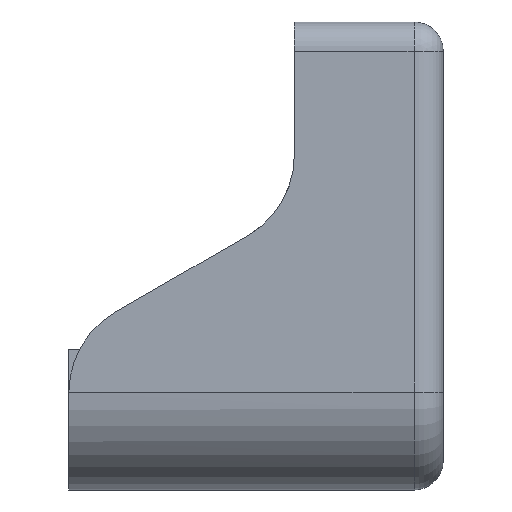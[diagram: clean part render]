
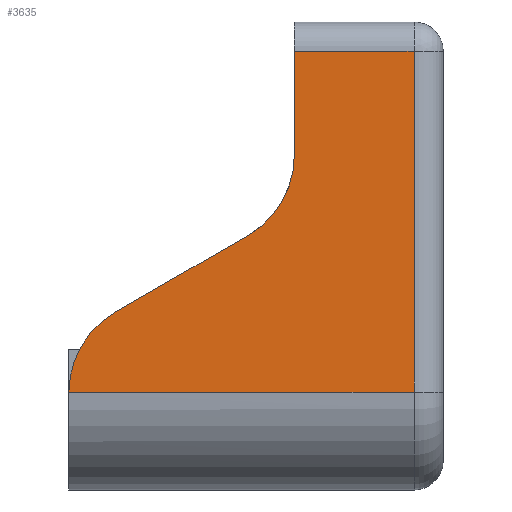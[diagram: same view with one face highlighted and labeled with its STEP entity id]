
A CAD part, left-side view. The second image highlights one B-rep face of the part: STEP entity #3635.
In plain terms, the highlighted planar face has unit normal (-1, 0, 0).
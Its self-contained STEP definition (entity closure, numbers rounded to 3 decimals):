
#18 = ORIENTED_EDGE ( 'NONE', *, *, #4894, .T. ) ;
#307 = VECTOR ( 'NONE', #1986, 1000. ) ;
#477 = CARTESIAN_POINT ( 'NONE',  ( -75., 80.8, 161.975 ) ) ;
#558 = ORIENTED_EDGE ( 'NONE', *, *, #1687, .F. ) ;
#592 = DIRECTION ( 'NONE',  ( 0., 0., 1. ) ) ;
#1118 = EDGE_CURVE ( 'NONE', #4269, #3350, #3681, .T. ) ;
#1317 = EDGE_LOOP ( 'NONE', ( #2369, #8676, #9579, #7155, #18, #8631, #3894, #558 ) ) ;
#1482 = VERTEX_POINT ( 'NONE', #3538 ) ;
#1687 = EDGE_CURVE ( 'NONE', #1999, #7305, #4813, .T. ) ;
#1859 = DIRECTION ( 'NONE',  ( 0., 0., 1. ) ) ;
#1873 = FACE_OUTER_BOUND ( 'NONE', #1317, .T. ) ;
#1986 = DIRECTION ( 'NONE',  ( 0., 1., 0. ) ) ;
#1999 = VERTEX_POINT ( 'NONE', #5899 ) ;
#2112 = CARTESIAN_POINT ( 'NONE',  ( -75., 130.8, 105.33 ) ) ;
#2221 = DIRECTION ( 'NONE',  ( 1., 0., 0. ) ) ;
#2238 = CARTESIAN_POINT ( 'NONE',  ( -75., 80.8, 177.8 ) ) ;
#2369 = ORIENTED_EDGE ( 'NONE', *, *, #6816, .T. ) ;
#2486 = VECTOR ( 'NONE', #5579, 1000. ) ;
#2498 = VECTOR ( 'NONE', #6675, 1000. ) ;
#2614 = CARTESIAN_POINT ( 'NONE',  ( -75., 76.2, 79.118 ) ) ;
#2794 = CARTESIAN_POINT ( 'NONE',  ( -75., 105.8, 62.029 ) ) ;
#3011 = DIRECTION ( 'NONE',  ( 0., 0., 1. ) ) ;
#3120 = AXIS2_PLACEMENT_3D ( 'NONE', #4458, #7650, #3011 ) ;
#3150 = VECTOR ( 'NONE', #9945, 1000. ) ;
#3350 = VERTEX_POINT ( 'NONE', #477 ) ;
#3394 = CARTESIAN_POINT ( 'NONE',  ( -75., 15.825, 177.8 ) ) ;
#3483 = CARTESIAN_POINT ( 'NONE',  ( -75., 0., 161.975 ) ) ;
#3538 = CARTESIAN_POINT ( 'NONE',  ( -75., 177.8, 20.459 ) ) ;
#3595 = LINE ( 'NONE', #4833, #2498 ) ;
#3635 = ADVANCED_FACE ( 'NONE', ( #1873 ), #7833, .T. ) ;
#3681 = LINE ( 'NONE', #3483, #307 ) ;
#3894 = ORIENTED_EDGE ( 'NONE', *, *, #5418, .F. ) ;
#4069 = CIRCLE ( 'NONE', #4570, 50. ) ;
#4245 = LINE ( 'NONE', #3394, #6100 ) ;
#4269 = VERTEX_POINT ( 'NONE', #8941 ) ;
#4370 = VERTEX_POINT ( 'NONE', #7381 ) ;
#4458 = CARTESIAN_POINT ( 'NONE',  ( -75., 152.4, -23.535 ) ) ;
#4570 = AXIS2_PLACEMENT_3D ( 'NONE', #2112, #2221, #592 ) ;
#4608 = DIRECTION ( 'NONE',  ( -1., 0., 0. ) ) ;
#4712 = CARTESIAN_POINT ( 'NONE',  ( -75., 80.8, 105.33 ) ) ;
#4813 = CIRCLE ( 'NONE', #6749, 50.8 ) ;
#4833 = CARTESIAN_POINT ( 'NONE',  ( -75., 0., -23.025 ) ) ;
#4894 = EDGE_CURVE ( 'NONE', #7076, #5629, #4069, .T. ) ;
#5305 = EDGE_CURVE ( 'NONE', #5629, #1482, #6391, .T. ) ;
#5418 = EDGE_CURVE ( 'NONE', #7305, #1482, #5842, .T. ) ;
#5512 = CARTESIAN_POINT ( 'NONE',  ( -75., 152.4, -23.535 ) ) ;
#5579 = DIRECTION ( 'NONE',  ( 0., 0.866, -0.5 ) ) ;
#5629 = VERTEX_POINT ( 'NONE', #2794 ) ;
#5842 = CIRCLE ( 'NONE', #3120, 50.8 ) ;
#5899 = CARTESIAN_POINT ( 'NONE',  ( -75., 203.197, -23.025 ) ) ;
#6100 = VECTOR ( 'NONE', #1859, 1000. ) ;
#6218 = AXIS2_PLACEMENT_3D ( 'NONE', #8443, #4608, #7787 ) ;
#6273 = DIRECTION ( 'NONE',  ( 1., 0., 0. ) ) ;
#6391 = LINE ( 'NONE', #2614, #2486 ) ;
#6675 = DIRECTION ( 'NONE',  ( 0., -1., 0. ) ) ;
#6749 = AXIS2_PLACEMENT_3D ( 'NONE', #5512, #6273, #9447 ) ;
#6816 = EDGE_CURVE ( 'NONE', #1999, #4370, #3595, .T. ) ;
#7076 = VERTEX_POINT ( 'NONE', #4712 ) ;
#7155 = ORIENTED_EDGE ( 'NONE', *, *, #7249, .T. ) ;
#7249 = EDGE_CURVE ( 'NONE', #3350, #7076, #9195, .T. ) ;
#7305 = VERTEX_POINT ( 'NONE', #9831 ) ;
#7381 = CARTESIAN_POINT ( 'NONE',  ( -75., 15.825, -23.025 ) ) ;
#7650 = DIRECTION ( 'NONE',  ( 1., 0., 0. ) ) ;
#7787 = DIRECTION ( 'NONE',  ( 0., 1., 0. ) ) ;
#7833 = PLANE ( 'NONE',  #6218 ) ;
#8443 = CARTESIAN_POINT ( 'NONE',  ( -75., 0., -12.7 ) ) ;
#8631 = ORIENTED_EDGE ( 'NONE', *, *, #5305, .T. ) ;
#8676 = ORIENTED_EDGE ( 'NONE', *, *, #9688, .T. ) ;
#8941 = CARTESIAN_POINT ( 'NONE',  ( -75., 15.825, 161.975 ) ) ;
#9195 = LINE ( 'NONE', #2238, #3150 ) ;
#9447 = DIRECTION ( 'NONE',  ( 0., 0., 1. ) ) ;
#9579 = ORIENTED_EDGE ( 'NONE', *, *, #1118, .T. ) ;
#9688 = EDGE_CURVE ( 'NONE', #4370, #4269, #4245, .T. ) ;
#9831 = CARTESIAN_POINT ( 'NONE',  ( -75., 196.394, 1.865 ) ) ;
#9945 = DIRECTION ( 'NONE',  ( 0., 0., -1. ) ) ;
